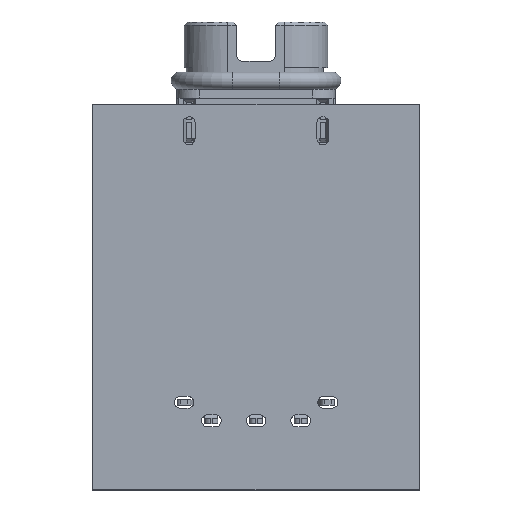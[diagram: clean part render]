
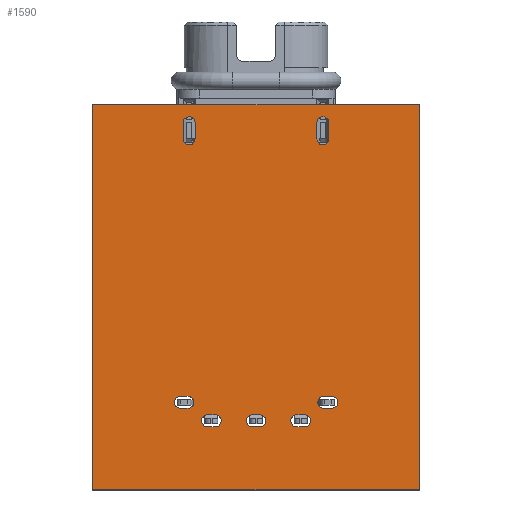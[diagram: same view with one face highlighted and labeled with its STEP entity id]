
A CAD part, top view. The second image highlights one B-rep face of the part: STEP entity #1590.
In plain terms, the highlighted planar face has unit normal (0, 0, 1).
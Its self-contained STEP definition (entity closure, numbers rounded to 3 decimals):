
#1590=ADVANCED_FACE('',(#2046,#2047,#2048,#2049,#2050,#2051,#2052,#2053),
#1969,.F.);
#1969=PLANE('',#10877);
#2046=FACE_BOUND('',#2550,.T.);
#2047=FACE_BOUND('',#2551,.T.);
#2048=FACE_BOUND('',#2552,.T.);
#2049=FACE_BOUND('',#2553,.T.);
#2050=FACE_BOUND('',#2554,.T.);
#2051=FACE_BOUND('',#2555,.T.);
#2052=FACE_BOUND('',#2556,.T.);
#2053=FACE_BOUND('',#2557,.T.);
#2550=EDGE_LOOP('',(#5474,#5475,#5476,#5477));
#2551=EDGE_LOOP('',(#5478,#5479,#5480,#5481));
#2552=EDGE_LOOP('',(#5482,#5483,#5484,#5485));
#2553=EDGE_LOOP('',(#5486,#5487,#5488,#5489));
#2554=EDGE_LOOP('',(#5490,#5491,#5492,#5493));
#2555=EDGE_LOOP('',(#5494,#5495,#5496,#5497));
#2556=EDGE_LOOP('',(#5498,#5499,#5500,#5501));
#2557=EDGE_LOOP('',(#5502,#5503,#5504,#5505));
#2876=CIRCLE('',#10863,0.275);
#2877=CIRCLE('',#10864,0.275);
#2878=CIRCLE('',#10865,0.275);
#2879=CIRCLE('',#10866,0.275);
#2880=CIRCLE('',#10867,0.275);
#2881=CIRCLE('',#10868,0.275);
#2882=CIRCLE('',#10869,0.275);
#2883=CIRCLE('',#10870,0.275);
#2884=CIRCLE('',#10871,0.275);
#2885=CIRCLE('',#10872,0.275);
#2886=CIRCLE('',#10873,0.275);
#2887=CIRCLE('',#10874,0.275);
#2888=CIRCLE('',#10875,0.275);
#2889=CIRCLE('',#10876,0.275);
#5474=ORIENTED_EDGE('',*,*,#7982,.F.);
#5475=ORIENTED_EDGE('',*,*,#7986,.F.);
#5476=ORIENTED_EDGE('',*,*,#7989,.F.);
#5477=ORIENTED_EDGE('',*,*,#7992,.F.);
#5478=ORIENTED_EDGE('',*,*,#8022,.F.);
#5479=ORIENTED_EDGE('',*,*,#8023,.F.);
#5480=ORIENTED_EDGE('',*,*,#8024,.F.);
#5481=ORIENTED_EDGE('',*,*,#8025,.F.);
#5482=ORIENTED_EDGE('',*,*,#8026,.F.);
#5483=ORIENTED_EDGE('',*,*,#8027,.F.);
#5484=ORIENTED_EDGE('',*,*,#8028,.F.);
#5485=ORIENTED_EDGE('',*,*,#8029,.F.);
#5486=ORIENTED_EDGE('',*,*,#8030,.F.);
#5487=ORIENTED_EDGE('',*,*,#8031,.F.);
#5488=ORIENTED_EDGE('',*,*,#8032,.F.);
#5489=ORIENTED_EDGE('',*,*,#8033,.F.);
#5490=ORIENTED_EDGE('',*,*,#8034,.F.);
#5491=ORIENTED_EDGE('',*,*,#8035,.F.);
#5492=ORIENTED_EDGE('',*,*,#8036,.F.);
#5493=ORIENTED_EDGE('',*,*,#8037,.F.);
#5494=ORIENTED_EDGE('',*,*,#8038,.F.);
#5495=ORIENTED_EDGE('',*,*,#8039,.F.);
#5496=ORIENTED_EDGE('',*,*,#8040,.F.);
#5497=ORIENTED_EDGE('',*,*,#8041,.F.);
#5498=ORIENTED_EDGE('',*,*,#8042,.F.);
#5499=ORIENTED_EDGE('',*,*,#8043,.F.);
#5500=ORIENTED_EDGE('',*,*,#8044,.F.);
#5501=ORIENTED_EDGE('',*,*,#8045,.F.);
#5502=ORIENTED_EDGE('',*,*,#8046,.F.);
#5503=ORIENTED_EDGE('',*,*,#8047,.F.);
#5504=ORIENTED_EDGE('',*,*,#8048,.F.);
#5505=ORIENTED_EDGE('',*,*,#8049,.F.);
#6608=VERTEX_POINT('',#17178);
#6609=VERTEX_POINT('',#17179);
#6612=VERTEX_POINT('',#17187);
#6614=VERTEX_POINT('',#17193);
#6644=VERTEX_POINT('',#17259);
#6645=VERTEX_POINT('',#17260);
#6646=VERTEX_POINT('',#17262);
#6647=VERTEX_POINT('',#17264);
#6648=VERTEX_POINT('',#17267);
#6649=VERTEX_POINT('',#17268);
#6650=VERTEX_POINT('',#17270);
#6651=VERTEX_POINT('',#17272);
#6652=VERTEX_POINT('',#17275);
#6653=VERTEX_POINT('',#17276);
#6654=VERTEX_POINT('',#17278);
#6655=VERTEX_POINT('',#17280);
#6656=VERTEX_POINT('',#17283);
#6657=VERTEX_POINT('',#17284);
#6658=VERTEX_POINT('',#17286);
#6659=VERTEX_POINT('',#17288);
#6660=VERTEX_POINT('',#17291);
#6661=VERTEX_POINT('',#17292);
#6662=VERTEX_POINT('',#17294);
#6663=VERTEX_POINT('',#17296);
#6664=VERTEX_POINT('',#17299);
#6665=VERTEX_POINT('',#17300);
#6666=VERTEX_POINT('',#17302);
#6667=VERTEX_POINT('',#17304);
#6668=VERTEX_POINT('',#17307);
#6669=VERTEX_POINT('',#17308);
#6670=VERTEX_POINT('',#17310);
#6671=VERTEX_POINT('',#17312);
#7982=EDGE_CURVE('',#6608,#6609,#9014,.T.);
#7986=EDGE_CURVE('',#6612,#6608,#9018,.T.);
#7989=EDGE_CURVE('',#6614,#6612,#9021,.T.);
#7992=EDGE_CURVE('',#6609,#6614,#9024,.T.);
#8022=EDGE_CURVE('',#6644,#6645,#2876,.T.);
#8023=EDGE_CURVE('',#6646,#6644,#9040,.T.);
#8024=EDGE_CURVE('',#6647,#6646,#2877,.T.);
#8025=EDGE_CURVE('',#6645,#6647,#9041,.T.);
#8026=EDGE_CURVE('',#6648,#6649,#9042,.T.);
#8027=EDGE_CURVE('',#6650,#6648,#2878,.T.);
#8028=EDGE_CURVE('',#6651,#6650,#9043,.T.);
#8029=EDGE_CURVE('',#6649,#6651,#2879,.T.);
#8030=EDGE_CURVE('',#6652,#6653,#2880,.T.);
#8031=EDGE_CURVE('',#6654,#6652,#9044,.T.);
#8032=EDGE_CURVE('',#6655,#6654,#2881,.T.);
#8033=EDGE_CURVE('',#6653,#6655,#9045,.T.);
#8034=EDGE_CURVE('',#6656,#6657,#2882,.T.);
#8035=EDGE_CURVE('',#6658,#6656,#9046,.T.);
#8036=EDGE_CURVE('',#6659,#6658,#2883,.T.);
#8037=EDGE_CURVE('',#6657,#6659,#9047,.T.);
#8038=EDGE_CURVE('',#6660,#6661,#2884,.T.);
#8039=EDGE_CURVE('',#6662,#6660,#9048,.T.);
#8040=EDGE_CURVE('',#6663,#6662,#2885,.T.);
#8041=EDGE_CURVE('',#6661,#6663,#9049,.T.);
#8042=EDGE_CURVE('',#6664,#6665,#9050,.T.);
#8043=EDGE_CURVE('',#6666,#6664,#2886,.T.);
#8044=EDGE_CURVE('',#6667,#6666,#9051,.T.);
#8045=EDGE_CURVE('',#6665,#6667,#2887,.T.);
#8046=EDGE_CURVE('',#6668,#6669,#2888,.T.);
#8047=EDGE_CURVE('',#6670,#6668,#9052,.T.);
#8048=EDGE_CURVE('',#6671,#6670,#2889,.T.);
#8049=EDGE_CURVE('',#6669,#6671,#9053,.T.);
#9014=LINE('',#17177,#9996);
#9018=LINE('',#17186,#10000);
#9021=LINE('',#17192,#10003);
#9024=LINE('',#17198,#10006);
#9040=LINE('',#17261,#10022);
#9041=LINE('',#17265,#10023);
#9042=LINE('',#17266,#10024);
#9043=LINE('',#17271,#10025);
#9044=LINE('',#17277,#10026);
#9045=LINE('',#17281,#10027);
#9046=LINE('',#17285,#10028);
#9047=LINE('',#17289,#10029);
#9048=LINE('',#17293,#10030);
#9049=LINE('',#17297,#10031);
#9050=LINE('',#17298,#10032);
#9051=LINE('',#17303,#10033);
#9052=LINE('',#17309,#10034);
#9053=LINE('',#17313,#10035);
#9996=VECTOR('',#13275,1.);
#10000=VECTOR('',#13281,1.);
#10003=VECTOR('',#13286,1.);
#10006=VECTOR('',#13291,1.);
#10022=VECTOR('',#13341,1.);
#10023=VECTOR('',#13344,1.);
#10024=VECTOR('',#13345,1.);
#10025=VECTOR('',#13348,1.);
#10026=VECTOR('',#13353,1.);
#10027=VECTOR('',#13356,1.);
#10028=VECTOR('',#13359,1.);
#10029=VECTOR('',#13362,1.);
#10030=VECTOR('',#13365,1.);
#10031=VECTOR('',#13368,1.);
#10032=VECTOR('',#13369,1.);
#10033=VECTOR('',#13372,1.);
#10034=VECTOR('',#13377,1.);
#10035=VECTOR('',#13380,1.);
#10863=AXIS2_PLACEMENT_3D('',#17258,#13339,#13340);
#10864=AXIS2_PLACEMENT_3D('',#17263,#13342,#13343);
#10865=AXIS2_PLACEMENT_3D('',#17269,#13346,#13347);
#10866=AXIS2_PLACEMENT_3D('',#17273,#13349,#13350);
#10867=AXIS2_PLACEMENT_3D('',#17274,#13351,#13352);
#10868=AXIS2_PLACEMENT_3D('',#17279,#13354,#13355);
#10869=AXIS2_PLACEMENT_3D('',#17282,#13357,#13358);
#10870=AXIS2_PLACEMENT_3D('',#17287,#13360,#13361);
#10871=AXIS2_PLACEMENT_3D('',#17290,#13363,#13364);
#10872=AXIS2_PLACEMENT_3D('',#17295,#13366,#13367);
#10873=AXIS2_PLACEMENT_3D('',#17301,#13370,#13371);
#10874=AXIS2_PLACEMENT_3D('',#17305,#13373,#13374);
#10875=AXIS2_PLACEMENT_3D('',#17306,#13375,#13376);
#10876=AXIS2_PLACEMENT_3D('',#17311,#13378,#13379);
#10877=AXIS2_PLACEMENT_3D('',#17314,#13381,#13382);
#13275=DIRECTION('',(0.,1.,0.));
#13281=DIRECTION('',(-1.,0.,0.));
#13286=DIRECTION('',(0.,-1.,0.));
#13291=DIRECTION('',(1.,0.,0.));
#13339=DIRECTION('',(0.,0.,1.));
#13340=DIRECTION('',(-1.,0.,0.));
#13341=DIRECTION('',(-1.,0.,0.));
#13342=DIRECTION('',(0.,0.,1.));
#13343=DIRECTION('',(-1.,0.,0.));
#13344=DIRECTION('',(1.,0.,0.));
#13345=DIRECTION('',(0.,-1.,0.));
#13346=DIRECTION('',(0.,0.,1.));
#13347=DIRECTION('',(-1.,0.,0.));
#13348=DIRECTION('',(0.,1.,0.));
#13349=DIRECTION('',(0.,0.,1.));
#13350=DIRECTION('',(-1.,0.,0.));
#13351=DIRECTION('',(0.,0.,1.));
#13352=DIRECTION('',(-1.,0.,0.));
#13353=DIRECTION('',(-1.,0.,0.));
#13354=DIRECTION('',(0.,0.,1.));
#13355=DIRECTION('',(-1.,0.,0.));
#13356=DIRECTION('',(1.,0.,0.));
#13357=DIRECTION('',(0.,0.,1.));
#13358=DIRECTION('',(-1.,0.,0.));
#13359=DIRECTION('',(-1.,0.,0.));
#13360=DIRECTION('',(0.,0.,1.));
#13361=DIRECTION('',(-1.,0.,0.));
#13362=DIRECTION('',(1.,0.,0.));
#13363=DIRECTION('',(0.,0.,1.));
#13364=DIRECTION('',(-1.,0.,0.));
#13365=DIRECTION('',(-1.,0.,0.));
#13366=DIRECTION('',(0.,0.,1.));
#13367=DIRECTION('',(-1.,0.,0.));
#13368=DIRECTION('',(1.,0.,0.));
#13369=DIRECTION('',(0.,-1.,0.));
#13370=DIRECTION('',(0.,0.,1.));
#13371=DIRECTION('',(-1.,0.,0.));
#13372=DIRECTION('',(0.,1.,0.));
#13373=DIRECTION('',(0.,0.,1.));
#13374=DIRECTION('',(-1.,0.,0.));
#13375=DIRECTION('',(0.,0.,1.));
#13376=DIRECTION('',(-1.,0.,0.));
#13377=DIRECTION('',(-1.,0.,0.));
#13378=DIRECTION('',(0.,0.,1.));
#13379=DIRECTION('',(-1.,0.,0.));
#13380=DIRECTION('',(1.,0.,0.));
#13381=DIRECTION('',(0.,0.,-1.));
#13382=DIRECTION('',(-1.,0.,0.));
#17177=CARTESIAN_POINT('',(-7.501,-3.5,2.9));
#17178=CARTESIAN_POINT('',(-7.501,-21.5,2.9));
#17179=CARTESIAN_POINT('',(-7.501,-3.8,2.9));
#17186=CARTESIAN_POINT('',(-7.501,-21.5,2.9));
#17187=CARTESIAN_POINT('',(7.499,-21.5,2.9));
#17192=CARTESIAN_POINT('',(7.499,-21.5,2.9));
#17193=CARTESIAN_POINT('',(7.499,-3.8,2.9));
#17198=CARTESIAN_POINT('',(-3.575,-3.8,2.9));
#17258=CARTESIAN_POINT('',(-3.475,-17.475,2.9));
#17259=CARTESIAN_POINT('',(-3.475,-17.2,2.9));
#17260=CARTESIAN_POINT('',(-3.475,-17.75,2.9));
#17261=CARTESIAN_POINT('',(-3.575,-17.2,2.9));
#17262=CARTESIAN_POINT('',(-3.125,-17.2,2.9));
#17263=CARTESIAN_POINT('',(-3.125,-17.475,2.9));
#17264=CARTESIAN_POINT('',(-3.125,-17.75,2.9));
#17265=CARTESIAN_POINT('',(-3.025,-17.75,2.9));
#17266=CARTESIAN_POINT('',(-3.35,-5.475,2.9));
#17267=CARTESIAN_POINT('',(-3.35,-4.625,2.9));
#17268=CARTESIAN_POINT('',(-3.35,-5.375,2.9));
#17269=CARTESIAN_POINT('',(-3.075,-4.625,2.9));
#17270=CARTESIAN_POINT('',(-2.8,-4.625,2.9));
#17271=CARTESIAN_POINT('',(-2.8,-4.525,2.9));
#17272=CARTESIAN_POINT('',(-2.8,-5.375,2.9));
#17273=CARTESIAN_POINT('',(-3.075,-5.375,2.9));
#17274=CARTESIAN_POINT('',(-2.225,-18.325,2.9));
#17275=CARTESIAN_POINT('',(-2.225,-18.05,2.9));
#17276=CARTESIAN_POINT('',(-2.225,-18.6,2.9));
#17277=CARTESIAN_POINT('',(-2.325,-18.05,2.9));
#17278=CARTESIAN_POINT('',(-1.875,-18.05,2.9));
#17279=CARTESIAN_POINT('',(-1.875,-18.325,2.9));
#17280=CARTESIAN_POINT('',(-1.875,-18.6,2.9));
#17281=CARTESIAN_POINT('',(-1.775,-18.6,2.9));
#17282=CARTESIAN_POINT('',(-0.175,-18.325,2.9));
#17283=CARTESIAN_POINT('',(-0.175,-18.05,2.9));
#17284=CARTESIAN_POINT('',(-0.175,-18.6,2.9));
#17285=CARTESIAN_POINT('',(-0.275,-18.05,2.9));
#17286=CARTESIAN_POINT('',(0.175,-18.05,2.9));
#17287=CARTESIAN_POINT('',(0.175,-18.325,2.9));
#17288=CARTESIAN_POINT('',(0.175,-18.6,2.9));
#17289=CARTESIAN_POINT('',(0.275,-18.6,2.9));
#17290=CARTESIAN_POINT('',(1.875,-18.325,2.9));
#17291=CARTESIAN_POINT('',(1.875,-18.05,2.9));
#17292=CARTESIAN_POINT('',(1.875,-18.6,2.9));
#17293=CARTESIAN_POINT('',(1.775,-18.05,2.9));
#17294=CARTESIAN_POINT('',(2.225,-18.05,2.9));
#17295=CARTESIAN_POINT('',(2.225,-18.325,2.9));
#17296=CARTESIAN_POINT('',(2.225,-18.6,2.9));
#17297=CARTESIAN_POINT('',(2.325,-18.6,2.9));
#17298=CARTESIAN_POINT('',(2.8,-5.475,2.9));
#17299=CARTESIAN_POINT('',(2.8,-4.625,2.9));
#17300=CARTESIAN_POINT('',(2.8,-5.375,2.9));
#17301=CARTESIAN_POINT('',(3.075,-4.625,2.9));
#17302=CARTESIAN_POINT('',(3.35,-4.625,2.9));
#17303=CARTESIAN_POINT('',(3.35,-4.525,2.9));
#17304=CARTESIAN_POINT('',(3.35,-5.375,2.9));
#17305=CARTESIAN_POINT('',(3.075,-5.375,2.9));
#17306=CARTESIAN_POINT('',(3.113,-17.475,2.9));
#17307=CARTESIAN_POINT('',(3.113,-17.2,2.9));
#17308=CARTESIAN_POINT('',(3.113,-17.75,2.9));
#17309=CARTESIAN_POINT('',(3.013,-17.2,2.9));
#17310=CARTESIAN_POINT('',(3.487,-17.2,2.9));
#17311=CARTESIAN_POINT('',(3.487,-17.475,2.9));
#17312=CARTESIAN_POINT('',(3.487,-17.75,2.9));
#17313=CARTESIAN_POINT('',(3.587,-17.75,2.9));
#17314=CARTESIAN_POINT('',(-3.575,-17.475,2.9));
